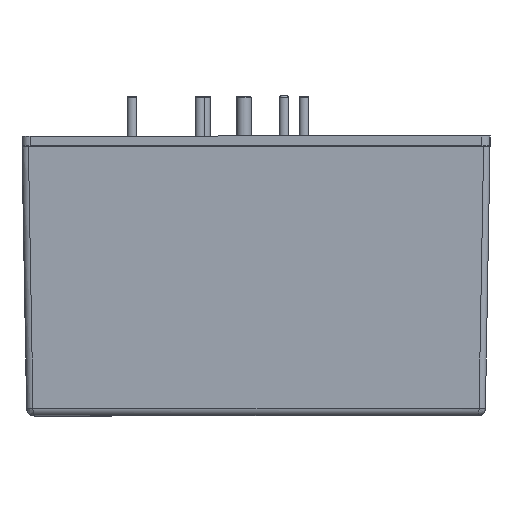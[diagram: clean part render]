
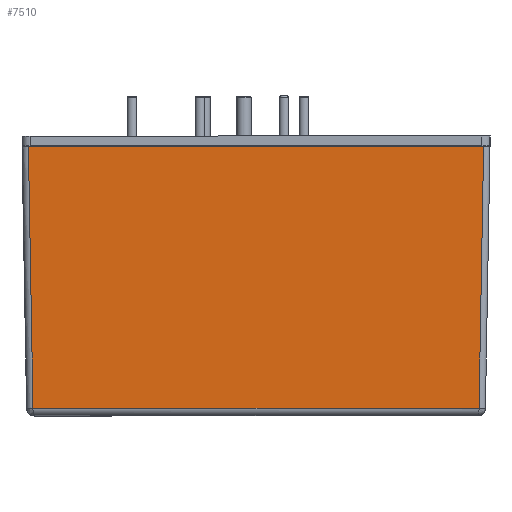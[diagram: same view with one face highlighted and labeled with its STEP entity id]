
A CAD part, left-side view. The second image highlights one B-rep face of the part: STEP entity #7510.
In plain terms, the highlighted planar face has unit normal (-1, 0, -0.018).
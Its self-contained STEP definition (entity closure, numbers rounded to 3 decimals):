
#542=LINE($,#11738,#1353);
#543=LINE($,#11741,#1354);
#544=LINE($,#11743,#1355);
#545=LINE($,#11744,#1356);
#1353=VECTOR($,#9483,32.727);
#1354=VECTOR($,#9486,55.758);
#1355=VECTOR($,#9487,56.9);
#1356=VECTOR($,#9488,32.727);
#1932=PLANE($,#8099);
#2463=FACE_OUTER_BOUND($,#2967,.T.);
#2967=EDGE_LOOP($,(#6130,#6131,#6132,#6133));
#3765=VERTEX_POINT($,#11718);
#3766=VERTEX_POINT($,#11736);
#3767=VERTEX_POINT($,#11740);
#3768=VERTEX_POINT($,#11742);
#4623=EDGE_CURVE($,#3766,#3765,#542,.T.);
#4624=EDGE_CURVE($,#3765,#3767,#543,.T.);
#4625=EDGE_CURVE($,#3768,#3766,#544,.T.);
#4626=EDGE_CURVE($,#3768,#3767,#545,.T.);
#6130=ORIENTED_EDGE($,*,*,#4624,.F.);
#6131=ORIENTED_EDGE($,*,*,#4623,.F.);
#6132=ORIENTED_EDGE($,*,*,#4625,.F.);
#6133=ORIENTED_EDGE($,*,*,#4626,.T.);
#7510=ADVANCED_FACE($,(#2463),#1932,.T.);
#8099=AXIS2_PLACEMENT_3D($,#11739,#9484,#9485);
#9483=DIRECTION($,(0.017,0.017,-1.));
#9484=DIRECTION('center_axis',(-1.,0.,-0.017));
#9485=DIRECTION('ref_axis',(0.,-1.,0.));
#9486=DIRECTION($,(0.,1.,0.));
#9487=DIRECTION($,(0.,-1.,0.));
#9488=DIRECTION($,(0.017,-0.017,-1.));
#11718=CARTESIAN_POINT('',(-53.929,-27.879,0.983));
#11736=CARTESIAN_POINT('',(-54.5,-28.45,33.7));
#11738=CARTESIAN_POINT($,(-54.5,-28.45,33.7));
#11739=CARTESIAN_POINT('Origin',(-54.5,31.883,33.7));
#11740=CARTESIAN_POINT('',(-53.929,27.879,0.983));
#11741=CARTESIAN_POINT($,(-53.929,-27.879,0.983));
#11742=CARTESIAN_POINT('',(-54.5,28.45,33.7));
#11743=CARTESIAN_POINT($,(-54.5,28.45,33.7));
#11744=CARTESIAN_POINT($,(-54.5,28.45,33.7));
